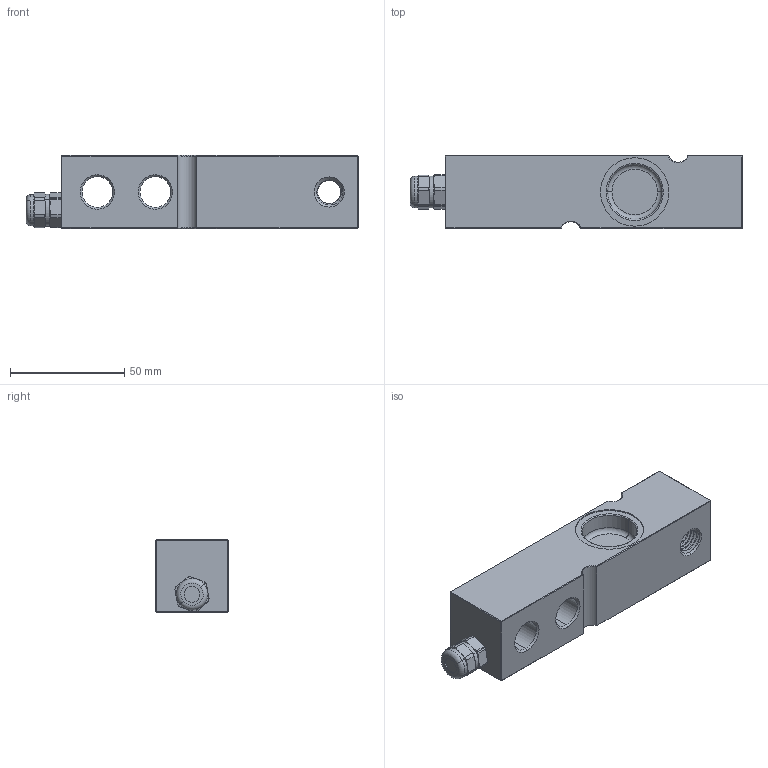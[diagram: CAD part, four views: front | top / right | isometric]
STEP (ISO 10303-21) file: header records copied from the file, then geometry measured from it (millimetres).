
FILE_DESCRIPTION (( 'STEP AP214' ), '1' );
FILE_NAME ('3510-2000kg.STEP', '2024-01-29T10:27:58', ( '' ), ( '' ), 'SwSTEP 2.0', 'SolidWorks 2019', '' );
FILE_SCHEMA (( 'AUTOMOTIVE_DESIGN' ));
Length unit declared in the file: millimetre
Products named in the file (2): 3510-2000kg
Bounding box: 145.5 x 32 x 32 mm (x, y, z)
Volume: 112390 mm3; surface area: 24416 mm2
Topology: 1 solids, 3 shells, 158 faces, 374 edges, 229 vertices
Faces by surface type: cylinder 59, plane 55, cone 31, torus 10, bspline 3
Entity records: 10040 total; most frequent: CARTESIAN_POINT 5204, DIRECTION 749, ORIENTED_EDGE 748, EDGE_CURVE 374, AXIS2_PLACEMENT_3D 294, VERTEX_POINT 229, EDGE_LOOP 175, LINE 161
